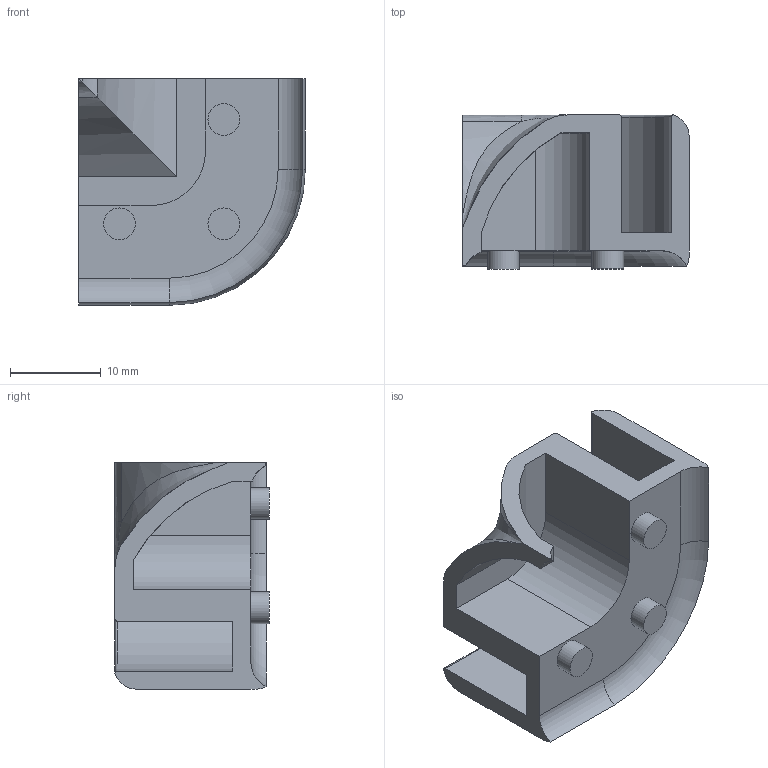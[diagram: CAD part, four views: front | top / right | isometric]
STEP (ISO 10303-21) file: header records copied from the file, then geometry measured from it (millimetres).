
FILE_DESCRIPTION (( 'STEP AP214' ), '1' );
FILE_NAME ('L15853.step', '2024-12-03T16:20:12', ( '' ), ( '' ), 'SwSTEP 2.0', 'SolidWorks 2023', '' );
FILE_SCHEMA (( 'AUTOMOTIVE_DESIGN' ));
Length unit declared in the file: millimetre
Products named in the file (1): L15853
Bounding box: 25.02 x 17 x 25.02 mm (x, y, z)
Volume: 3709.4 mm3; surface area: 3537.8 mm2
Topology: 1 solids, 1 shells, 53 faces, 128 edges, 80 vertices
Faces by surface type: cylinder 25, plane 19, torus 5, bspline 4
Full cylindrical faces by diameter (mm): 3.5 x3
Entity records: 1946 total; most frequent: CARTESIAN_POINT 714, DIRECTION 252, ORIENTED_EDGE 250, EDGE_CURVE 125, AXIS2_PLACEMENT_3D 96, VERTEX_POINT 80, VECTOR 60, LINE 60
